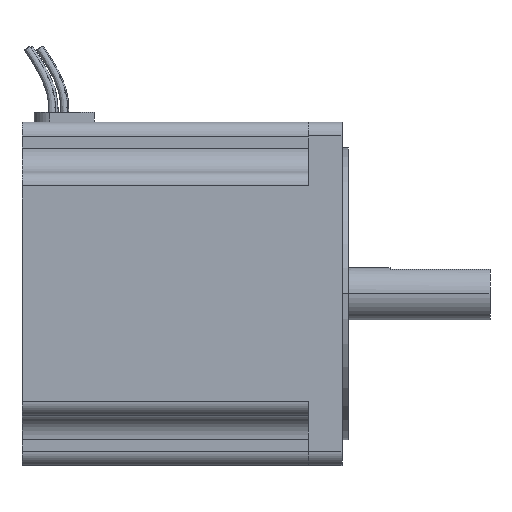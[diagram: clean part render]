
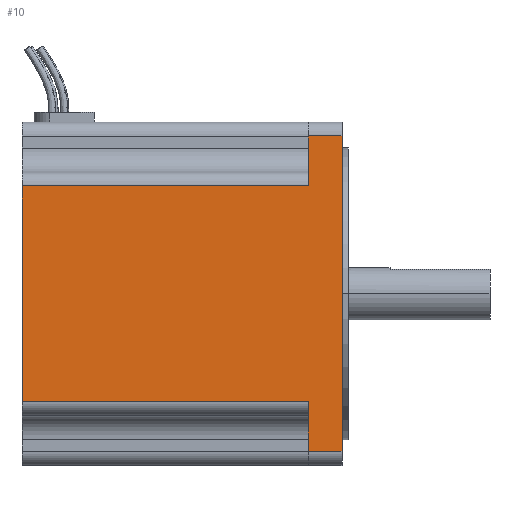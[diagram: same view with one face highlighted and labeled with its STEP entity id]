
A CAD part, top view. The second image highlights one B-rep face of the part: STEP entity #10.
In plain terms, the highlighted planar face has unit normal (0, 0, 1).
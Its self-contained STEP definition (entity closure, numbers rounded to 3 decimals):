
#6 = ORIENTED_EDGE ( 'NONE', *, *, #7, .T. ) ;
#7 = EDGE_CURVE ( 'NONE', #9, #19, #729, .T. ) ;
#8 = EDGE_CURVE ( 'NONE', #9, #31, #725, .T. ) ;
#9 = VERTEX_POINT ( 'NONE', #784 ) ;
#10 = ADVANCED_FACE ( 'NONE', ( #783 ), #782, .F. ) ;
#11 = EDGE_CURVE ( 'NONE', #20, #22, #777, .T. ) ;
#12 = VERTEX_POINT ( 'NONE', #773 ) ;
#13 = ORIENTED_EDGE ( 'NONE', *, *, #21, .T. ) ;
#17 = ORIENTED_EDGE ( 'NONE', *, *, #11, .T. ) ;
#19 = VERTEX_POINT ( 'NONE', #767 ) ;
#20 = VERTEX_POINT ( 'NONE', #766 ) ;
#21 = EDGE_CURVE ( 'NONE', #12, #395, #765, .T. ) ;
#22 = VERTEX_POINT ( 'NONE', #761 ) ;
#23 = ORIENTED_EDGE ( 'NONE', *, *, #393, .F. ) ;
#24 = ORIENTED_EDGE ( 'NONE', *, *, #25, .T. ) ;
#25 = EDGE_CURVE ( 'NONE', #394, #31, #760, .T. ) ;
#26 = ORIENTED_EDGE ( 'NONE', *, *, #178, .F. ) ;
#27 = ORIENTED_EDGE ( 'NONE', *, *, #8, .F. ) ;
#29 = ORIENTED_EDGE ( 'NONE', *, *, #32, .T. ) ;
#30 = EDGE_LOOP ( 'NONE', ( #29, #17, #26, #13, #23, #24, #27, #6 ) ) ;
#31 = VERTEX_POINT ( 'NONE', #812 ) ;
#32 = EDGE_CURVE ( 'NONE', #19, #20, #811, .T. ) ;
#178 = EDGE_CURVE ( 'NONE', #12, #22, #1065, .T. ) ;
#393 = EDGE_CURVE ( 'NONE', #394, #395, #1599, .T. ) ;
#394 = VERTEX_POINT ( 'NONE', #1595 ) ;
#395 = VERTEX_POINT ( 'NONE', #1594 ) ;
#723 = VECTOR ( 'NONE', #785, 1000. ) ;
#724 = CARTESIAN_POINT ( 'NONE',  ( 71.62, 85.85, 0. ) ) ;
#725 = LINE ( 'NONE', #724, #723 ) ;
#726 = DIRECTION ( 'NONE',  ( -1., 0., 0. ) ) ;
#727 = VECTOR ( 'NONE', #726, 1000. ) ;
#728 = CARTESIAN_POINT ( 'NONE',  ( 80., 69.85, 0. ) ) ;
#729 = LINE ( 'NONE', #728, #727 ) ;
#757 = DIRECTION ( 'NONE',  ( -1., 0., 0. ) ) ;
#758 = VECTOR ( 'NONE', #757, 1000. ) ;
#759 = CARTESIAN_POINT ( 'NONE',  ( 80., 82.35, 0. ) ) ;
#760 = LINE ( 'NONE', #759, #758 ) ;
#761 = CARTESIAN_POINT ( 'NONE',  ( 71.62, 16., 0. ) ) ;
#762 = DIRECTION ( 'NONE',  ( 1., 0., 0. ) ) ;
#763 = VECTOR ( 'NONE', #762, 1000. ) ;
#764 = CARTESIAN_POINT ( 'NONE',  ( 80., 3.5, 0. ) ) ;
#765 = LINE ( 'NONE', #764, #763 ) ;
#766 = CARTESIAN_POINT ( 'NONE',  ( 0., 16., 0. ) ) ;
#767 = CARTESIAN_POINT ( 'NONE',  ( 0., 69.85, 0. ) ) ;
#773 = CARTESIAN_POINT ( 'NONE',  ( 71.62, 3.5, 0. ) ) ;
#774 = DIRECTION ( 'NONE',  ( 1., 0., 0. ) ) ;
#775 = VECTOR ( 'NONE', #774, 1000. ) ;
#776 = CARTESIAN_POINT ( 'NONE',  ( 80., 16., 0. ) ) ;
#777 = LINE ( 'NONE', #776, #775 ) ;
#778 = DIRECTION ( 'NONE',  ( -1., 0., 0. ) ) ;
#779 = DIRECTION ( 'NONE',  ( 0., 0., -1. ) ) ;
#780 = AXIS2_PLACEMENT_3D ( 'NONE', #781, #779, #778 ) ;
#781 = CARTESIAN_POINT ( 'NONE',  ( 80., 0., 0. ) ) ;
#782 = PLANE ( 'NONE',  #780 ) ;
#783 = FACE_OUTER_BOUND ( 'NONE', #30, .T. ) ;
#784 = CARTESIAN_POINT ( 'NONE',  ( 71.62, 69.85, 0. ) ) ;
#785 = DIRECTION ( 'NONE',  ( 0., 1., 0. ) ) ;
#808 = DIRECTION ( 'NONE',  ( 0., -1., 0. ) ) ;
#809 = VECTOR ( 'NONE', #808, 1000. ) ;
#810 = CARTESIAN_POINT ( 'NONE',  ( 0., 0., 0. ) ) ;
#811 = LINE ( 'NONE', #810, #809 ) ;
#812 = CARTESIAN_POINT ( 'NONE',  ( 71.62, 82.35, 0. ) ) ;
#1062 = DIRECTION ( 'NONE',  ( 0., 1., 0. ) ) ;
#1063 = VECTOR ( 'NONE', #1062, 1000. ) ;
#1064 = CARTESIAN_POINT ( 'NONE',  ( 71.62, 0., 0. ) ) ;
#1065 = LINE ( 'NONE', #1064, #1063 ) ;
#1594 = CARTESIAN_POINT ( 'NONE',  ( 80., 3.5, 0. ) ) ;
#1595 = CARTESIAN_POINT ( 'NONE',  ( 80., 82.35, 0. ) ) ;
#1596 = DIRECTION ( 'NONE',  ( 0., -1., 0. ) ) ;
#1597 = VECTOR ( 'NONE', #1596, 1000. ) ;
#1598 = CARTESIAN_POINT ( 'NONE',  ( 80., 0., 0. ) ) ;
#1599 = LINE ( 'NONE', #1598, #1597 ) ;
